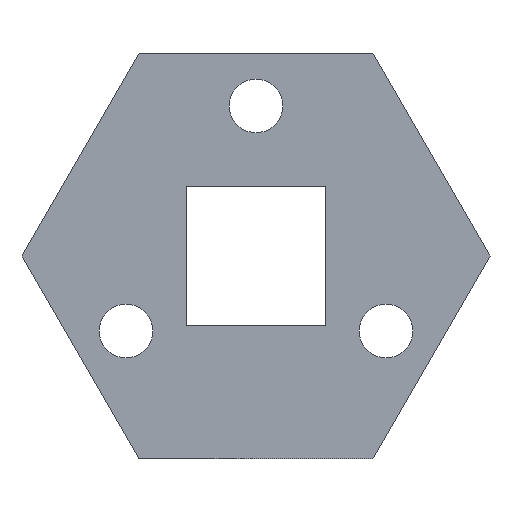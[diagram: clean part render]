
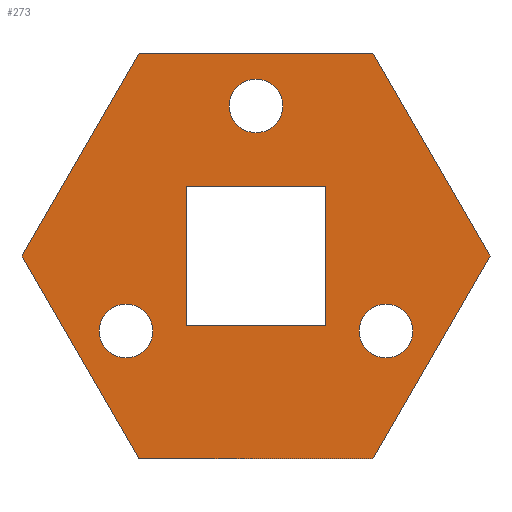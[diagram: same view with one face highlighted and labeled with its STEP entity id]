
A CAD part, front view. The second image highlights one B-rep face of the part: STEP entity #273.
In plain terms, the highlighted planar face has unit normal (0, -1, 0).
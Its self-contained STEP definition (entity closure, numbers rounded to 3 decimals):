
#4 = CARTESIAN_POINT ( 'NONE',  ( -6.062, 0., -3.5 ) ) ;
#15 = ORIENTED_EDGE ( 'NONE', *, *, #538, .F. ) ;
#20 = AXIS2_PLACEMENT_3D ( 'NONE', #327, #516, #546 ) ;
#26 = DIRECTION ( 'NONE',  ( -1., 0., 0. ) ) ;
#29 = LINE ( 'NONE', #460, #525 ) ;
#32 = DIRECTION ( 'NONE',  ( 0.5, 0., 0.866 ) ) ;
#34 = ORIENTED_EDGE ( 'NONE', *, *, #260, .T. ) ;
#38 = DIRECTION ( 'NONE',  ( 1., 0., 0. ) ) ;
#44 = CARTESIAN_POINT ( 'NONE',  ( -10.912, 0., 0. ) ) ;
#55 = VERTEX_POINT ( 'NONE', #505 ) ;
#59 = VERTEX_POINT ( 'NONE', #557 ) ;
#60 = VERTEX_POINT ( 'NONE', #138 ) ;
#71 = ORIENTED_EDGE ( 'NONE', *, *, #217, .F. ) ;
#73 = VECTOR ( 'NONE', #334, 1000. ) ;
#74 = VERTEX_POINT ( 'NONE', #535 ) ;
#76 = VECTOR ( 'NONE', #466, 1000. ) ;
#81 = VERTEX_POINT ( 'NONE', #208 ) ;
#82 = CARTESIAN_POINT ( 'NONE',  ( 3.25, 0., -3.25 ) ) ;
#84 = VERTEX_POINT ( 'NONE', #292 ) ;
#90 = PLANE ( 'NONE',  #542 ) ;
#98 = DIRECTION ( 'NONE',  ( 0., 0., 1. ) ) ;
#100 = EDGE_LOOP ( 'NONE', ( #173, #381 ) ) ;
#101 = VECTOR ( 'NONE', #457, 1000. ) ;
#111 = VERTEX_POINT ( 'NONE', #149 ) ;
#113 = CARTESIAN_POINT ( 'NONE',  ( 3.25, 0., -3.25 ) ) ;
#115 = ORIENTED_EDGE ( 'NONE', *, *, #519, .T. ) ;
#116 = DIRECTION ( 'NONE',  ( 0., 1., 0. ) ) ;
#118 = VERTEX_POINT ( 'NONE', #113 ) ;
#119 = CARTESIAN_POINT ( 'NONE',  ( -5.456, 0., -9.45 ) ) ;
#128 = DIRECTION ( 'NONE',  ( 0., 1., 0. ) ) ;
#134 = FACE_BOUND ( 'NONE', #308, .T. ) ;
#138 = CARTESIAN_POINT ( 'NONE',  ( -3.25, 0., 3.25 ) ) ;
#139 = DIRECTION ( 'NONE',  ( -0.5, 0., -0.866 ) ) ;
#142 = CIRCLE ( 'NONE', #536, 1.25 ) ;
#146 = CARTESIAN_POINT ( 'NONE',  ( 0., 0., 5.75 ) ) ;
#149 = CARTESIAN_POINT ( 'NONE',  ( -6.062, 0., -2.25 ) ) ;
#162 = ORIENTED_EDGE ( 'NONE', *, *, #589, .F. ) ;
#168 = ORIENTED_EDGE ( 'NONE', *, *, #247, .T. ) ;
#173 = ORIENTED_EDGE ( 'NONE', *, *, #283, .T. ) ;
#177 = EDGE_CURVE ( 'NONE', #532, #199, #507, .T. ) ;
#179 = CARTESIAN_POINT ( 'NONE',  ( -10.912, 0., 0. ) ) ;
#181 = LINE ( 'NONE', #375, #269 ) ;
#182 = CARTESIAN_POINT ( 'NONE',  ( 3.25, 0., 3.25 ) ) ;
#185 = LINE ( 'NONE', #331, #73 ) ;
#186 = LINE ( 'NONE', #44, #443 ) ;
#199 = VERTEX_POINT ( 'NONE', #549 ) ;
#208 = CARTESIAN_POINT ( 'NONE',  ( 10.912, 0., 0. ) ) ;
#209 = VERTEX_POINT ( 'NONE', #182 ) ;
#211 = EDGE_CURVE ( 'NONE', #59, #60, #504, .T. ) ;
#216 = CARTESIAN_POINT ( 'NONE',  ( 5.456, 0., -9.45 ) ) ;
#217 = EDGE_CURVE ( 'NONE', #252, #74, #186, .T. ) ;
#221 = FACE_BOUND ( 'NONE', #512, .T. ) ;
#231 = DIRECTION ( 'NONE',  ( 0., 0., 1. ) ) ;
#242 = VECTOR ( 'NONE', #26, 1000. ) ;
#247 = EDGE_CURVE ( 'NONE', #60, #209, #29, .T. ) ;
#252 = VERTEX_POINT ( 'NONE', #179 ) ;
#259 = CIRCLE ( 'NONE', #493, 1.25 ) ;
#260 = EDGE_CURVE ( 'NONE', #581, #55, #259, .T. ) ;
#267 = DIRECTION ( 'NONE',  ( 0., 0., 1. ) ) ;
#269 = VECTOR ( 'NONE', #139, 1000. ) ;
#270 = CARTESIAN_POINT ( 'NONE',  ( 6.062, 0., -4.75 ) ) ;
#273 = ADVANCED_FACE ( 'NONE', ( #407, #221, #134, #607, #321 ), #90, .F. ) ;
#275 = CARTESIAN_POINT ( 'NONE',  ( 5.456, 0., -9.45 ) ) ;
#278 = DIRECTION ( 'NONE',  ( 0., 1., 0. ) ) ;
#283 = EDGE_CURVE ( 'NONE', #420, #385, #355, .T. ) ;
#284 = CARTESIAN_POINT ( 'NONE',  ( -5.456, 0., 9.45 ) ) ;
#285 = DIRECTION ( 'NONE',  ( 0., 1., 0. ) ) ;
#292 = CARTESIAN_POINT ( 'NONE',  ( 5.456, 0., 9.45 ) ) ;
#295 = AXIS2_PLACEMENT_3D ( 'NONE', #4, #473, #98 ) ;
#298 = ORIENTED_EDGE ( 'NONE', *, *, #574, .T. ) ;
#303 = EDGE_CURVE ( 'NONE', #84, #81, #185, .T. ) ;
#308 = EDGE_LOOP ( 'NONE', ( #34, #483 ) ) ;
#309 = DIRECTION ( 'NONE',  ( -0.5, 0., 0.866 ) ) ;
#315 = CARTESIAN_POINT ( 'NONE',  ( -6.062, 0., -3.5 ) ) ;
#316 = CARTESIAN_POINT ( 'NONE',  ( -3.25, 0., -3.25 ) ) ;
#317 = CIRCLE ( 'NONE', #377, 1.25 ) ;
#321 = FACE_BOUND ( 'NONE', #458, .T. ) ;
#322 = ORIENTED_EDGE ( 'NONE', *, *, #323, .T. ) ;
#323 = EDGE_CURVE ( 'NONE', #111, #576, #366, .T. ) ;
#327 = CARTESIAN_POINT ( 'NONE',  ( 0., 0., 7. ) ) ;
#331 = CARTESIAN_POINT ( 'NONE',  ( 5.456, 0., 9.45 ) ) ;
#334 = DIRECTION ( 'NONE',  ( 0.5, 0., -0.866 ) ) ;
#338 = ORIENTED_EDGE ( 'NONE', *, *, #211, .T. ) ;
#343 = CIRCLE ( 'NONE', #449, 1.25 ) ;
#352 = LINE ( 'NONE', #119, #453 ) ;
#355 = CIRCLE ( 'NONE', #20, 1.25 ) ;
#358 = CARTESIAN_POINT ( 'NONE',  ( -3.25, 0., -3.25 ) ) ;
#362 = CARTESIAN_POINT ( 'NONE',  ( 6.062, 0., -3.5 ) ) ;
#366 = CIRCLE ( 'NONE', #295, 1.25 ) ;
#375 = CARTESIAN_POINT ( 'NONE',  ( 10.912, 0., 0. ) ) ;
#377 = AXIS2_PLACEMENT_3D ( 'NONE', #423, #285, #558 ) ;
#381 = ORIENTED_EDGE ( 'NONE', *, *, #451, .T. ) ;
#385 = VERTEX_POINT ( 'NONE', #513 ) ;
#388 = VECTOR ( 'NONE', #599, 1000. ) ;
#392 = EDGE_CURVE ( 'NONE', #74, #84, #563, .T. ) ;
#402 = ORIENTED_EDGE ( 'NONE', *, *, #392, .F. ) ;
#405 = VECTOR ( 'NONE', #593, 1000. ) ;
#407 = FACE_BOUND ( 'NONE', #100, .T. ) ;
#410 = DIRECTION ( 'NONE',  ( 0., 1., 0. ) ) ;
#420 = VERTEX_POINT ( 'NONE', #146 ) ;
#423 = CARTESIAN_POINT ( 'NONE',  ( 6.062, 0., -3.5 ) ) ;
#443 = VECTOR ( 'NONE', #32, 1000. ) ;
#447 = ORIENTED_EDGE ( 'NONE', *, *, #561, .T. ) ;
#449 = AXIS2_PLACEMENT_3D ( 'NONE', #456, #116, #545 ) ;
#450 = LINE ( 'NONE', #358, #242 ) ;
#451 = EDGE_CURVE ( 'NONE', #385, #420, #343, .T. ) ;
#453 = VECTOR ( 'NONE', #309, 1000. ) ;
#456 = CARTESIAN_POINT ( 'NONE',  ( 0., 0., 7. ) ) ;
#457 = DIRECTION ( 'NONE',  ( 0., 0., 1. ) ) ;
#458 = EDGE_LOOP ( 'NONE', ( #298, #115, #338, #168 ) ) ;
#460 = CARTESIAN_POINT ( 'NONE',  ( -3.25, 0., 3.25 ) ) ;
#466 = DIRECTION ( 'NONE',  ( 1., 0., 0. ) ) ;
#473 = DIRECTION ( 'NONE',  ( 0., 1., 0. ) ) ;
#479 = EDGE_LOOP ( 'NONE', ( #579, #162, #567, #402, #71, #15 ) ) ;
#483 = ORIENTED_EDGE ( 'NONE', *, *, #606, .T. ) ;
#492 = CARTESIAN_POINT ( 'NONE',  ( -6.062, 0., -4.75 ) ) ;
#493 = AXIS2_PLACEMENT_3D ( 'NONE', #362, #410, #267 ) ;
#497 = DIRECTION ( 'NONE',  ( 0., 0., 1. ) ) ;
#504 = LINE ( 'NONE', #316, #101 ) ;
#505 = CARTESIAN_POINT ( 'NONE',  ( 6.062, 0., -2.25 ) ) ;
#507 = LINE ( 'NONE', #275, #388 ) ;
#512 = EDGE_LOOP ( 'NONE', ( #447, #322 ) ) ;
#513 = CARTESIAN_POINT ( 'NONE',  ( 0., 0., 8.25 ) ) ;
#516 = DIRECTION ( 'NONE',  ( 0., 1., 0. ) ) ;
#519 = EDGE_CURVE ( 'NONE', #118, #59, #450, .T. ) ;
#525 = VECTOR ( 'NONE', #38, 1000. ) ;
#532 = VERTEX_POINT ( 'NONE', #216 ) ;
#535 = CARTESIAN_POINT ( 'NONE',  ( -5.456, 0., 9.45 ) ) ;
#536 = AXIS2_PLACEMENT_3D ( 'NONE', #315, #128, #497 ) ;
#538 = EDGE_CURVE ( 'NONE', #199, #252, #352, .T. ) ;
#542 = AXIS2_PLACEMENT_3D ( 'NONE', #596, #278, #231 ) ;
#545 = DIRECTION ( 'NONE',  ( 0., 0., 1. ) ) ;
#546 = DIRECTION ( 'NONE',  ( 0., 0., 1. ) ) ;
#548 = LINE ( 'NONE', #82, #405 ) ;
#549 = CARTESIAN_POINT ( 'NONE',  ( -5.456, 0., -9.45 ) ) ;
#557 = CARTESIAN_POINT ( 'NONE',  ( -3.25, 0., -3.25 ) ) ;
#558 = DIRECTION ( 'NONE',  ( 0., 0., 1. ) ) ;
#561 = EDGE_CURVE ( 'NONE', #576, #111, #142, .T. ) ;
#563 = LINE ( 'NONE', #284, #76 ) ;
#567 = ORIENTED_EDGE ( 'NONE', *, *, #303, .F. ) ;
#574 = EDGE_CURVE ( 'NONE', #209, #118, #548, .T. ) ;
#576 = VERTEX_POINT ( 'NONE', #492 ) ;
#579 = ORIENTED_EDGE ( 'NONE', *, *, #177, .F. ) ;
#581 = VERTEX_POINT ( 'NONE', #270 ) ;
#589 = EDGE_CURVE ( 'NONE', #81, #532, #181, .T. ) ;
#593 = DIRECTION ( 'NONE',  ( 0., 0., -1. ) ) ;
#596 = CARTESIAN_POINT ( 'NONE',  ( 0., 0., 0. ) ) ;
#599 = DIRECTION ( 'NONE',  ( -1., 0., 0. ) ) ;
#606 = EDGE_CURVE ( 'NONE', #55, #581, #317, .T. ) ;
#607 = FACE_OUTER_BOUND ( 'NONE', #479, .T. ) ;
